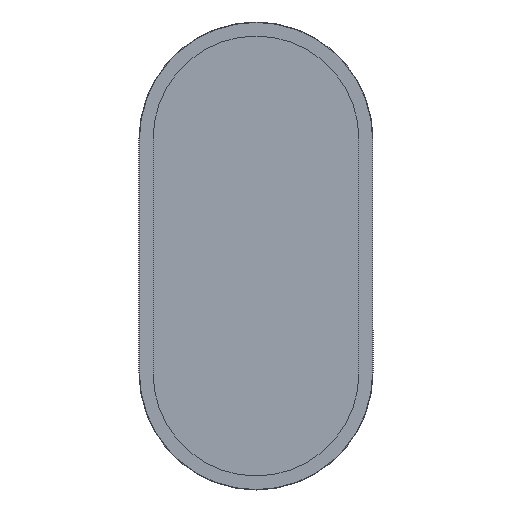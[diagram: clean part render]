
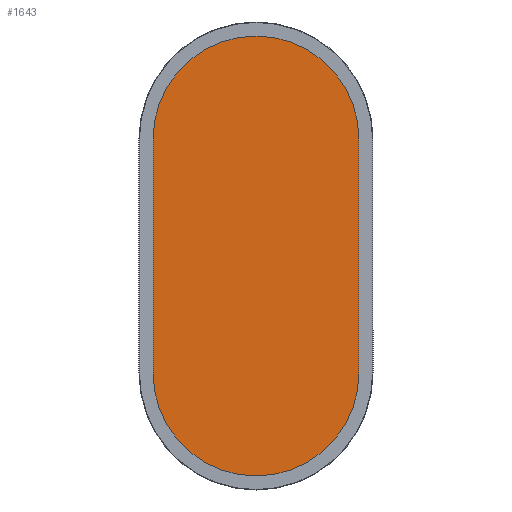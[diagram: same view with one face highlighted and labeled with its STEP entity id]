
A CAD part, front view. The second image highlights one B-rep face of the part: STEP entity #1643.
In plain terms, the highlighted planar face has unit normal (0, -1, 0).
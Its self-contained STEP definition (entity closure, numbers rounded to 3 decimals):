
#58=CIRCLE('',#1791,220.);
#60=CIRCLE('',#1795,220.);
#238=ORIENTED_EDGE('',*,*,#668,.T.);
#239=ORIENTED_EDGE('',*,*,#658,.T.);
#240=ORIENTED_EDGE('',*,*,#662,.T.);
#241=ORIENTED_EDGE('',*,*,#665,.T.);
#658=EDGE_CURVE('',#882,#883,#1036,.T.);
#662=EDGE_CURVE('',#883,#886,#58,.T.);
#665=EDGE_CURVE('',#886,#888,#1041,.T.);
#668=EDGE_CURVE('',#888,#882,#60,.T.);
#882=VERTEX_POINT('',#2492);
#883=VERTEX_POINT('',#2493);
#886=VERTEX_POINT('',#2501);
#888=VERTEX_POINT('',#2507);
#1036=LINE('',#2491,#1198);
#1041=LINE('',#2506,#1203);
#1198=VECTOR('',#2006,1000.);
#1203=VECTOR('',#2019,1000.);
#1363=EDGE_LOOP('',(#238,#239,#240,#241));
#1479=FACE_BOUND('',#1363,.T.);
#1583=PLANE('',#1798);
#1643=ADVANCED_FACE('',(#1479),#1583,.T.);
#1791=AXIS2_PLACEMENT_3D('',#2500,#2012,#2013);
#1795=AXIS2_PLACEMENT_3D('',#2512,#2024,#2025);
#1798=AXIS2_PLACEMENT_3D('',#2515,#2030,#2031);
#2006=DIRECTION('',(0.,0.,-1.));
#2012=DIRECTION('',(0.,-1.,0.));
#2013=DIRECTION('',(-1.,0.,0.));
#2019=DIRECTION('',(0.,0.,1.));
#2024=DIRECTION('',(0.,-1.,0.));
#2025=DIRECTION('',(1.,0.,0.));
#2030=DIRECTION('',(0.,-1.,0.));
#2031=DIRECTION('',(0.,0.,-1.));
#2491=CARTESIAN_POINT('',(47.574,0.,760.971));
#2492=CARTESIAN_POINT('',(47.574,0.,760.971));
#2493=CARTESIAN_POINT('',(47.574,0.,260.971));
#2500=CARTESIAN_POINT('',(267.574,0.,260.971));
#2501=CARTESIAN_POINT('',(487.574,0.,260.971));
#2506=CARTESIAN_POINT('',(487.574,0.,260.971));
#2507=CARTESIAN_POINT('',(487.574,0.,760.971));
#2512=CARTESIAN_POINT('',(267.574,0.,760.971));
#2515=CARTESIAN_POINT('',(267.574,0.,760.971));
